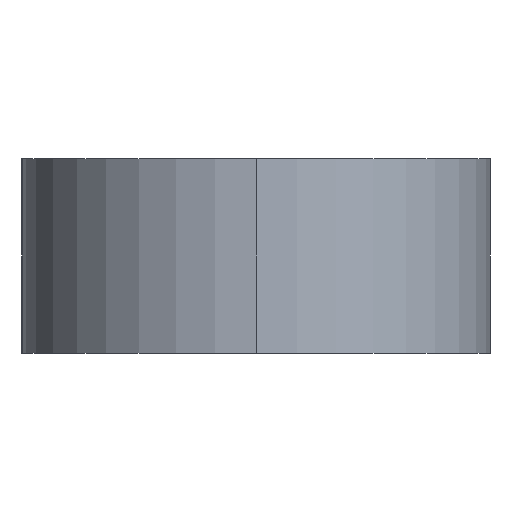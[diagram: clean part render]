
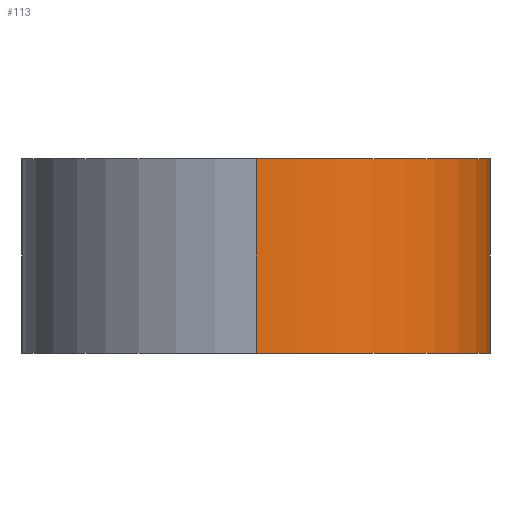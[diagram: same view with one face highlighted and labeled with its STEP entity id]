
A CAD part, left-side view. The second image highlights one B-rep face of the part: STEP entity #113.
In plain terms, the highlighted cylindrical face has radius 6 mm (diameter 12 mm), a partial arc.
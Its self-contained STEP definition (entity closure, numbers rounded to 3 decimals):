
#7 = EDGE_CURVE ( 'NONE', #91, #414, #24, .T. ) ;
#14 = EDGE_LOOP ( 'NONE', ( #19, #22, #176, #336 ) ) ;
#19 = ORIENTED_EDGE ( 'NONE', *, *, #137, .F. ) ;
#22 = ORIENTED_EDGE ( 'NONE', *, *, #7, .T. ) ;
#23 = AXIS2_PLACEMENT_3D ( 'NONE', #399, #341, #328 ) ;
#24 = LINE ( 'NONE', #119, #212 ) ;
#31 = DIRECTION ( 'NONE',  ( 0., 0., 1. ) ) ;
#32 = DIRECTION ( 'NONE',  ( 1., 0., 0. ) ) ;
#36 = LINE ( 'NONE', #365, #272 ) ;
#52 = EDGE_CURVE ( 'NONE', #120, #320, #36, .T. ) ;
#73 = FACE_OUTER_BOUND ( 'NONE', #14, .T. ) ;
#91 = VERTEX_POINT ( 'NONE', #398 ) ;
#99 = CIRCLE ( 'NONE', #23, 6. ) ;
#104 = CARTESIAN_POINT ( 'NONE',  ( -75., 0., 2.5 ) ) ;
#110 = CARTESIAN_POINT ( 'NONE',  ( -81., 0., -2.5 ) ) ;
#113 = ADVANCED_FACE ( 'NONE', ( #73 ), #363, .T. ) ;
#119 = CARTESIAN_POINT ( 'NONE',  ( -81., 0., 2.5 ) ) ;
#120 = VERTEX_POINT ( 'NONE', #125 ) ;
#125 = CARTESIAN_POINT ( 'NONE',  ( -75., -6., 2.5 ) ) ;
#137 = EDGE_CURVE ( 'NONE', #91, #120, #374, .T. ) ;
#155 = AXIS2_PLACEMENT_3D ( 'NONE', #187, #31, #32 ) ;
#176 = ORIENTED_EDGE ( 'NONE', *, *, #295, .T. ) ;
#178 = CARTESIAN_POINT ( 'NONE',  ( -75., -6., -2.5 ) ) ;
#187 = CARTESIAN_POINT ( 'NONE',  ( -75., 0., 2.5 ) ) ;
#212 = VECTOR ( 'NONE', #250, 1000. ) ;
#223 = AXIS2_PLACEMENT_3D ( 'NONE', #104, #232, #332 ) ;
#232 = DIRECTION ( 'NONE',  ( 0., 0., -1. ) ) ;
#250 = DIRECTION ( 'NONE',  ( 0., 0., -1. ) ) ;
#272 = VECTOR ( 'NONE', #300, 1000. ) ;
#295 = EDGE_CURVE ( 'NONE', #414, #320, #99, .T. ) ;
#300 = DIRECTION ( 'NONE',  ( 0., 0., -1. ) ) ;
#320 = VERTEX_POINT ( 'NONE', #178 ) ;
#328 = DIRECTION ( 'NONE',  ( 1., 0., 0. ) ) ;
#332 = DIRECTION ( 'NONE',  ( -1., 0., 0. ) ) ;
#336 = ORIENTED_EDGE ( 'NONE', *, *, #52, .F. ) ;
#341 = DIRECTION ( 'NONE',  ( 0., 0., 1. ) ) ;
#363 = CYLINDRICAL_SURFACE ( 'NONE', #223, 6. ) ;
#365 = CARTESIAN_POINT ( 'NONE',  ( -75., -6., 2.5 ) ) ;
#374 = CIRCLE ( 'NONE', #155, 6. ) ;
#398 = CARTESIAN_POINT ( 'NONE',  ( -81., 0., 2.5 ) ) ;
#399 = CARTESIAN_POINT ( 'NONE',  ( -75., 0., -2.5 ) ) ;
#414 = VERTEX_POINT ( 'NONE', #110 ) ;
